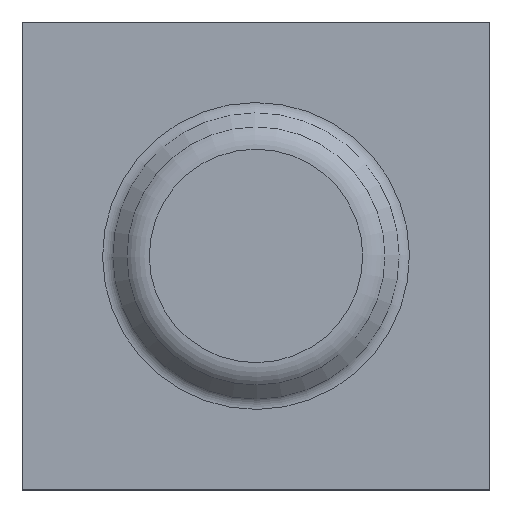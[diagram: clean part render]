
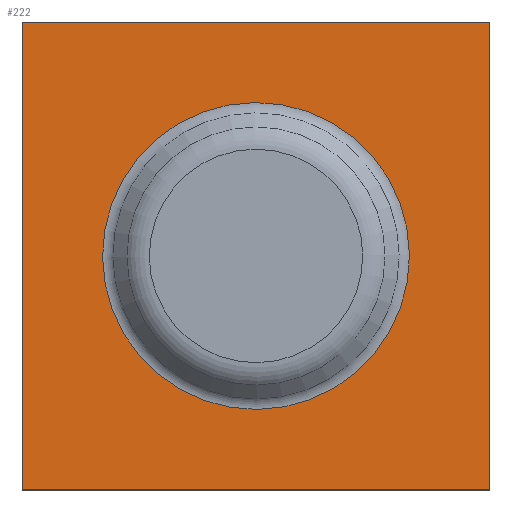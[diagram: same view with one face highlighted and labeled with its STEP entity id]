
A CAD part, top view. The second image highlights one B-rep face of the part: STEP entity #222.
In plain terms, the highlighted planar face has unit normal (0, 0, 1).
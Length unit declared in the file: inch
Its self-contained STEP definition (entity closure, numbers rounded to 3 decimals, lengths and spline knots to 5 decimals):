
#55=CARTESIAN_POINT('',(1.698,-0.90731,-8.57341));
#56=VERTEX_POINT('',#55);
#71=CARTESIAN_POINT('',(1.698,0.09269,-8.57341));
#72=VERTEX_POINT('',#71);
#79=CARTESIAN_POINT('',(1.698,-4.59333,-8.57341));
#80=DIRECTION('',(0.0,1.0,-0.0));
#81=VECTOR('',#80,1.0);
#82=LINE('',#79,#81);
#83=EDGE_CURVE('',#56,#72,#82,.T.);
#102=CARTESIAN_POINT('',(0.698,0.09269,-8.57341));
#103=VERTEX_POINT('',#102);
#110=CARTESIAN_POINT('',(1.67044,0.09269,-8.57341));
#111=DIRECTION('',(-1.0,0.0,0.0));
#112=VECTOR('',#111,1.0);
#113=LINE('',#110,#112);
#114=EDGE_CURVE('',#72,#103,#113,.T.);
#160=CARTESIAN_POINT('',(0.698,-0.90731,-8.57341));
#161=VERTEX_POINT('',#160);
#162=CARTESIAN_POINT('',(-5.09517,-0.90731,-8.57341));
#163=DIRECTION('',(1.0,0.0,0.0));
#164=VECTOR('',#163,1.0);
#165=LINE('',#162,#164);
#166=EDGE_CURVE('',#161,#56,#165,.T.);
#184=CARTESIAN_POINT('',(0.698,-1.08841,-8.57341));
#185=DIRECTION('',(0.0,-1.0,0.0));
#186=VECTOR('',#185,1.0);
#187=LINE('',#184,#186);
#188=EDGE_CURVE('',#103,#161,#187,.T.);
#200=ORIENTED_EDGE('',*,*,#166,.T.);
#201=ORIENTED_EDGE('',*,*,#83,.T.);
#202=ORIENTED_EDGE('',*,*,#114,.T.);
#203=ORIENTED_EDGE('',*,*,#188,.T.);
#204=EDGE_LOOP('',(#200,#201,#202,#203));
#205=FACE_OUTER_BOUND('',#204,.T.);
#206=CARTESIAN_POINT('',(0.87012,-0.40994,-8.57341));
#207=VERTEX_POINT('',#206);
#208=CARTESIAN_POINT('',(1.198,-0.40731,-8.57341));
#209=DIRECTION('',(0.0,0.0,1.0));
#210=DIRECTION('',(-1.0,0.0,0.0));
#211=AXIS2_PLACEMENT_3D('',#208,#209,#210);
#212=CIRCLE('',#211,0.32789);
#213=EDGE_CURVE('',#207,#207,#212,.T.);
#214=ORIENTED_EDGE('',*,*,#213,.F.);
#215=EDGE_LOOP('',(#214));
#216=FACE_BOUND('',#215,.T.);
#217=CARTESIAN_POINT('',(1.67044,-1.08841,-8.57341));
#218=DIRECTION('',(0.0,0.0,1.0));
#219=DIRECTION('',(1.0,0.0,0.0));
#220=AXIS2_PLACEMENT_3D('',#217,#218,#219);
#221=PLANE('',#220);
#222=ADVANCED_FACE('',(#205,#216),#221,.T.);
